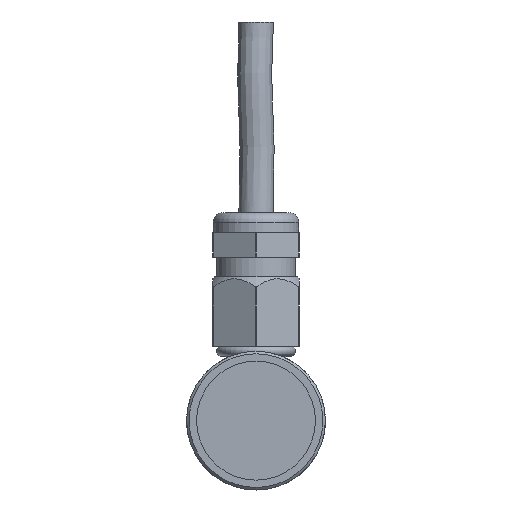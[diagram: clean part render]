
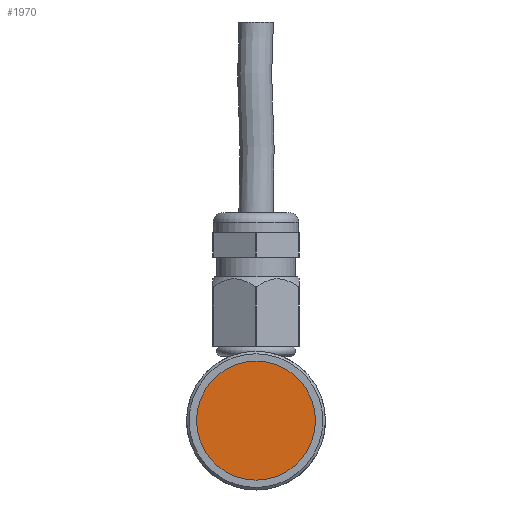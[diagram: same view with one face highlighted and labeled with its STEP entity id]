
A CAD part, left-side view. The second image highlights one B-rep face of the part: STEP entity #1970.
In plain terms, the highlighted planar face has unit normal (-1, 0, 0).
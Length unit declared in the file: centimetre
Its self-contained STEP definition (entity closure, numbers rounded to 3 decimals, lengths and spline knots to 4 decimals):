
#704=CIRCLE('',#2078,0.6);
#786=VERTEX_POINT('',#2875);
#1134=EDGE_CURVE('',#786,#786,#704,.T.);
#1358=ORIENTED_EDGE('',*,*,#1134,.T.);
#1737=EDGE_LOOP('',(#1358));
#1856=FACE_BOUND('',#1737,.T.);
#1970=ADVANCED_FACE('',(#1856),#3523,.T.);
#2078=AXIS2_PLACEMENT_3D('',#2874,#2251,#2252);
#2080=AXIS2_PLACEMENT_3D('',#2878,#2255,$);
#2251=DIRECTION('',(-1.,0.,0.));
#2252=DIRECTION('',(0.,0.,0.6));
#2255=DIRECTION('',(-1.,0.,0.));
#2874=CARTESIAN_POINT('',(0.1,0.,0.));
#2875=CARTESIAN_POINT('',(0.1,0.,0.6));
#2878=CARTESIAN_POINT('',(0.1,0.,0.));
#3523=PLANE('',#2080);
